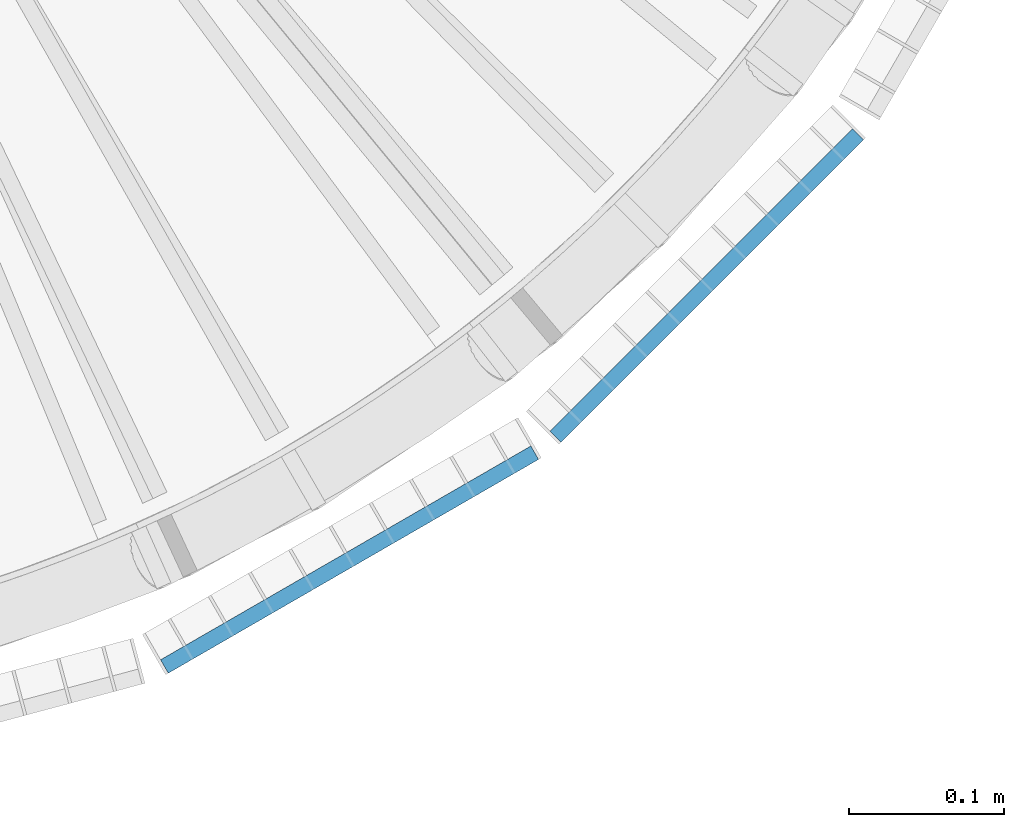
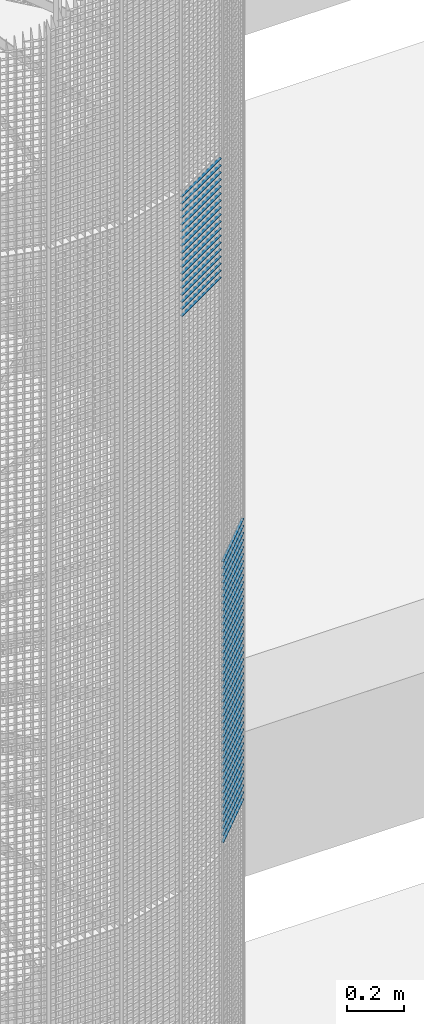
# One storey, part 241 of 1183: 59 beams, 2 elements without a shape of their own.
"""IFC2X3 building model written with IfcOpenShell, lengths in millimetres."""

from ifc_helpers import new_model, si_unit, frame, origin_with_axes, origin_2d_with_axis, place, context, subcontext, project, spatial, rectangle, extrude, material, type_object, element, aggregate, save


model = new_model("IFC2X3")

# Units and contexts
model_context = context("Model", 3, precision=1e-05, world=origin_with_axes())
body_context = subcontext(model_context, "Body", "Model", "MODEL_VIEW")
ifc_project = project(units=[si_unit("LENGTHUNIT", "METRE", prefix="MILLI"), si_unit("AREAUNIT", "SQUARE_METRE"), si_unit("VOLUMEUNIT", "CUBIC_METRE"), si_unit("MASSUNIT", "GRAM", prefix="KILO"), si_unit("TIMEUNIT", "SECOND"), si_unit("PLANEANGLEUNIT", "RADIAN"), si_unit("SOLIDANGLEUNIT", "STERADIAN"), si_unit("THERMODYNAMICTEMPERATUREUNIT", "DEGREE_CELSIUS"), si_unit("LUMINOUSINTENSITYUNIT", "LUMEN")], contexts=[model_context])

# Site, building, storey
site_placement = place(None, origin_with_axes())
site = spatial("IfcSite", under=ifc_project, at=site_placement, Name="Undefined", CompositionType="ELEMENT")
building_placement = place(site_placement, origin_with_axes())
building = spatial("IfcBuilding", under=site, at=building_placement, Name="Undefined", CompositionType="ELEMENT")
storey_placement = place(building_placement, origin_with_axes())
storey = spatial("IfcBuildingStorey", under=building, at=storey_placement, Name="Undefined", CompositionType="ELEMENT", Elevation=0.0)

# Assembly, beams
assembly_1_placement = place(storey_placement, origin_with_axes())
assembly_1 = element("IfcElementAssembly", 1, at=assembly_1_placement, inside=storey, Name="BORDURE", AssemblyPlace="NOTDEFINED", PredefinedType="NOTDEFINED")
ifc_material = material(Name="STEEL/S235JR")
beam_type = type_object("IfcBeamType", Name="PL2*10", PredefinedType="NOTDEFINED")
beam_1_placement = place(assembly_1_placement, frame((689.771348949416, -884.927168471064, 13230.0), z_axis=(0.707106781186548, -0.707106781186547, 0.0), x_axis=(0.707106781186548, 0.707106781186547, 0.0)))
beam_1 = element("IfcBeam", 2, at=beam_1_placement, type_object=beam_type, material=ifc_material, Name="ENTRETOISE", context=body_context, shape_type="SweptSolid", body=[
    extrude(rectangle(XDim=2.0, YDim=10.0, at=origin_2d_with_axis()), frame((275.999999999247, 9.09494701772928e-13, 1.53210777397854e-14), z_axis=(-1.0, 0.0, 0.0), x_axis=(0.0, -1.0, 0.0)), (0.0, 0.0, 1.0), 276.0),
])
beam_2_placement = place(assembly_1_placement, frame((689.771348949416, -884.927168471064, 13200.0), z_axis=(0.707106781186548, -0.707106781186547, 0.0), x_axis=(0.707106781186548, 0.707106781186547, 0.0)))
beam_2 = element("IfcBeam", 3, at=beam_2_placement, type_object=beam_type, material=ifc_material, Name="ENTRETOISE", context=body_context, shape_type="SweptSolid", body=[
    extrude(rectangle(XDim=2.0, YDim=10.0, at=origin_2d_with_axis()), frame((275.999999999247, 9.09494701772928e-13, 1.53210777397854e-14), z_axis=(-1.0, 0.0, 0.0), x_axis=(0.0, -1.0, 0.0)), (0.0, 0.0, 1.0), 276.0),
])
beam_3_placement = place(assembly_1_placement, frame((689.771348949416, -884.927168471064, 13170.0), z_axis=(0.707106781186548, -0.707106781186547, 0.0), x_axis=(0.707106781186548, 0.707106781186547, 0.0)))
beam_3 = element("IfcBeam", 4, at=beam_3_placement, type_object=beam_type, material=ifc_material, Name="ENTRETOISE", context=body_context, shape_type="SweptSolid", body=[
    extrude(rectangle(XDim=2.0, YDim=10.0, at=origin_2d_with_axis()), frame((275.999999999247, 9.09494701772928e-13, 1.53210777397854e-14), z_axis=(-1.0, 0.0, 0.0), x_axis=(0.0, -1.0, 0.0)), (0.0, 0.0, 1.0), 276.0),
])
beam_4_placement = place(assembly_1_placement, frame((689.771348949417, -884.927168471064, 13140.0), z_axis=(0.707106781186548, -0.707106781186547, 0.0), x_axis=(0.707106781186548, 0.707106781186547, 0.0)))
beam_4 = element("IfcBeam", 5, at=beam_4_placement, type_object=beam_type, material=ifc_material, Name="ENTRETOISE", context=body_context, shape_type="SweptSolid", body=[
    extrude(rectangle(XDim=2.0, YDim=10.0, at=origin_2d_with_axis()), frame((275.999999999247, 9.09494701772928e-13, 1.53210777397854e-14), z_axis=(-1.0, 0.0, 0.0), x_axis=(0.0, -1.0, 0.0)), (0.0, 0.0, 1.0), 276.0),
])
beam_5_placement = place(assembly_1_placement, frame((689.771348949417, -884.927168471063, 12720.0), z_axis=(0.707106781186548, -0.707106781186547, 0.0), x_axis=(0.707106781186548, 0.707106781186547, 0.0)))
beam_5 = element("IfcBeam", 6, at=beam_5_placement, type_object=beam_type, material=ifc_material, Name="ENTRETOISE", context=body_context, shape_type="SweptSolid", body=[
    extrude(rectangle(XDim=2.0, YDim=10.0, at=origin_2d_with_axis()), frame((275.999999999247, 9.09494701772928e-13, 1.53210777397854e-14), z_axis=(-1.0, 0.0, 0.0), x_axis=(0.0, -1.0, 0.0)), (0.0, 0.0, 1.0), 276.0),
])
beam_6_placement = place(assembly_1_placement, frame((689.771348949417, -884.927168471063, 12690.0), z_axis=(0.707106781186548, -0.707106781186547, 0.0), x_axis=(0.707106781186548, 0.707106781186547, 0.0)))
beam_6 = element("IfcBeam", 7, at=beam_6_placement, type_object=beam_type, material=ifc_material, Name="ENTRETOISE", context=body_context, shape_type="SweptSolid", body=[
    extrude(rectangle(XDim=2.0, YDim=10.0, at=origin_2d_with_axis()), frame((275.999999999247, 9.09494701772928e-13, 1.53210777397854e-14), z_axis=(-1.0, 0.0, 0.0), x_axis=(0.0, -1.0, 0.0)), (0.0, 0.0, 1.0), 276.0),
])
beam_7_placement = place(assembly_1_placement, frame((689.771348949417, -884.927168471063, 12750.0), z_axis=(0.707106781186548, -0.707106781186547, 0.0), x_axis=(0.707106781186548, 0.707106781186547, 0.0)))
beam_7 = element("IfcBeam", 8, at=beam_7_placement, type_object=beam_type, material=ifc_material, Name="ENTRETOISE", context=body_context, shape_type="SweptSolid", body=[
    extrude(rectangle(XDim=2.0, YDim=10.0, at=origin_2d_with_axis()), frame((275.999999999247, 9.09494701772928e-13, 1.53210777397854e-14), z_axis=(-1.0, 0.0, 0.0), x_axis=(0.0, -1.0, 0.0)), (0.0, 0.0, 1.0), 276.0),
])
beam_8_placement = place(assembly_1_placement, frame((689.771348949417, -884.927168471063, 12660.0), z_axis=(0.707106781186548, -0.707106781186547, 0.0), x_axis=(0.707106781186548, 0.707106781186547, 0.0)))
beam_8 = element("IfcBeam", 9, at=beam_8_placement, type_object=beam_type, material=ifc_material, Name="ENTRETOISE", context=body_context, shape_type="SweptSolid", body=[
    extrude(rectangle(XDim=2.0, YDim=10.0, at=origin_2d_with_axis()), frame((275.999999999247, 9.09494701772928e-13, 1.53210777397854e-14), z_axis=(-1.0, 0.0, 0.0), x_axis=(0.0, -1.0, 0.0)), (0.0, 0.0, 1.0), 276.0),
])
beam_9_placement = place(assembly_1_placement, frame((689.771348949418, -884.927168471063, 12630.0), z_axis=(0.707106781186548, -0.707106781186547, 0.0), x_axis=(0.707106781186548, 0.707106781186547, 0.0)))
beam_9 = element("IfcBeam", 10, at=beam_9_placement, type_object=beam_type, material=ifc_material, Name="ENTRETOISE", context=body_context, shape_type="SweptSolid", body=[
    extrude(rectangle(XDim=2.0, YDim=10.0, at=origin_2d_with_axis()), frame((275.999999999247, 9.09494701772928e-13, 1.53210777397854e-14), z_axis=(-1.0, 0.0, 0.0), x_axis=(0.0, -1.0, 0.0)), (0.0, 0.0, 1.0), 276.0),
])
beam_10_placement = place(assembly_1_placement, frame((689.771348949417, -884.927168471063, 12780.0), z_axis=(0.707106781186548, -0.707106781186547, 0.0), x_axis=(0.707106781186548, 0.707106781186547, 0.0)))
beam_10 = element("IfcBeam", 11, at=beam_10_placement, type_object=beam_type, material=ifc_material, Name="ENTRETOISE", context=body_context, shape_type="SweptSolid", body=[
    extrude(rectangle(XDim=2.0, YDim=10.0, at=origin_2d_with_axis()), frame((275.999999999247, 9.09494701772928e-13, 1.53210777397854e-14), z_axis=(-1.0, 0.0, 0.0), x_axis=(0.0, -1.0, 0.0)), (0.0, 0.0, 1.0), 276.0),
])
beam_11_placement = place(assembly_1_placement, frame((689.771348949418, -884.927168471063, 12600.0), z_axis=(0.707106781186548, -0.707106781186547, 0.0), x_axis=(0.707106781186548, 0.707106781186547, 0.0)))
beam_11 = element("IfcBeam", 12, at=beam_11_placement, type_object=beam_type, material=ifc_material, Name="ENTRETOISE", context=body_context, shape_type="SweptSolid", body=[
    extrude(rectangle(XDim=2.0, YDim=10.0, at=origin_2d_with_axis()), frame((275.999999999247, 9.09494701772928e-13, 1.53210777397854e-14), z_axis=(-1.0, 0.0, 0.0), x_axis=(0.0, -1.0, 0.0)), (0.0, 0.0, 1.0), 276.0),
])
beam_12_placement = place(assembly_1_placement, frame((689.771348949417, -884.927168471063, 12810.0), z_axis=(0.707106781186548, -0.707106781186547, 0.0), x_axis=(0.707106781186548, 0.707106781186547, 0.0)))
beam_12 = element("IfcBeam", 13, at=beam_12_placement, type_object=beam_type, material=ifc_material, Name="ENTRETOISE", context=body_context, shape_type="SweptSolid", body=[
    extrude(rectangle(XDim=2.0, YDim=10.0, at=origin_2d_with_axis()), frame((275.999999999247, 9.09494701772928e-13, 1.53210777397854e-14), z_axis=(-1.0, 0.0, 0.0), x_axis=(0.0, -1.0, 0.0)), (0.0, 0.0, 1.0), 276.0),
])
beam_13_placement = place(assembly_1_placement, frame((689.771348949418, -884.927168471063, 12570.0), z_axis=(0.707106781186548, -0.707106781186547, 0.0), x_axis=(0.707106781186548, 0.707106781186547, 0.0)))
beam_13 = element("IfcBeam", 14, at=beam_13_placement, type_object=beam_type, material=ifc_material, Name="ENTRETOISE", context=body_context, shape_type="SweptSolid", body=[
    extrude(rectangle(XDim=2.0, YDim=10.0, at=origin_2d_with_axis()), frame((275.999999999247, 9.09494701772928e-13, 1.53210777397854e-14), z_axis=(-1.0, 0.0, 0.0), x_axis=(0.0, -1.0, 0.0)), (0.0, 0.0, 1.0), 276.0),
])
beam_14_placement = place(assembly_1_placement, frame((689.771348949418, -884.927168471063, 12540.0), z_axis=(0.707106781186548, -0.707106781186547, 0.0), x_axis=(0.707106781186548, 0.707106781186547, 0.0)))
beam_14 = element("IfcBeam", 15, at=beam_14_placement, type_object=beam_type, material=ifc_material, Name="ENTRETOISE", context=body_context, shape_type="SweptSolid", body=[
    extrude(rectangle(XDim=2.0, YDim=10.0, at=origin_2d_with_axis()), frame((275.999999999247, 9.09494701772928e-13, 1.53210777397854e-14), z_axis=(-1.0, 0.0, 0.0), x_axis=(0.0, -1.0, 0.0)), (0.0, 0.0, 1.0), 276.0),
])
beam_15_placement = place(assembly_1_placement, frame((689.771348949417, -884.927168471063, 12840.0), z_axis=(0.707106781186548, -0.707106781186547, 0.0), x_axis=(0.707106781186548, 0.707106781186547, 0.0)))
beam_15 = element("IfcBeam", 16, at=beam_15_placement, type_object=beam_type, material=ifc_material, Name="ENTRETOISE", context=body_context, shape_type="SweptSolid", body=[
    extrude(rectangle(XDim=2.0, YDim=10.0, at=origin_2d_with_axis()), frame((275.999999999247, 9.09494701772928e-13, 1.53210777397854e-14), z_axis=(-1.0, 0.0, 0.0), x_axis=(0.0, -1.0, 0.0)), (0.0, 0.0, 1.0), 276.0),
])
beam_16_placement = place(assembly_1_placement, frame((689.771348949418, -884.927168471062, 12510.0), z_axis=(0.707106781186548, -0.707106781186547, 0.0), x_axis=(0.707106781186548, 0.707106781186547, 0.0)))
beam_16 = element("IfcBeam", 17, at=beam_16_placement, type_object=beam_type, material=ifc_material, Name="ENTRETOISE", context=body_context, shape_type="SweptSolid", body=[
    extrude(rectangle(XDim=2.0, YDim=10.0, at=origin_2d_with_axis()), frame((275.999999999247, 9.09494701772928e-13, 1.53210777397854e-14), z_axis=(-1.0, 0.0, 0.0), x_axis=(0.0, -1.0, 0.0)), (0.0, 0.0, 1.0), 276.0),
])
beam_17_placement = place(assembly_1_placement, frame((689.771348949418, -884.927168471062, 12480.0), z_axis=(0.707106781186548, -0.707106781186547, 0.0), x_axis=(0.707106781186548, 0.707106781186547, 0.0)))
beam_17 = element("IfcBeam", 18, at=beam_17_placement, type_object=beam_type, material=ifc_material, Name="ENTRETOISE", context=body_context, shape_type="SweptSolid", body=[
    extrude(rectangle(XDim=2.0, YDim=10.0, at=origin_2d_with_axis()), frame((275.999999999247, 9.09494701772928e-13, 1.53210777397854e-14), z_axis=(-1.0, 0.0, 0.0), x_axis=(0.0, -1.0, 0.0)), (0.0, 0.0, 1.0), 276.0),
])
beam_18_placement = place(assembly_1_placement, frame((689.771348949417, -884.927168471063, 12870.0), z_axis=(0.707106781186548, -0.707106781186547, 0.0), x_axis=(0.707106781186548, 0.707106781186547, 0.0)))
beam_18 = element("IfcBeam", 19, at=beam_18_placement, type_object=beam_type, material=ifc_material, Name="ENTRETOISE", context=body_context, shape_type="SweptSolid", body=[
    extrude(rectangle(XDim=2.0, YDim=10.0, at=origin_2d_with_axis()), frame((275.999999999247, 9.09494701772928e-13, 1.53210777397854e-14), z_axis=(-1.0, 0.0, 0.0), x_axis=(0.0, -1.0, 0.0)), (0.0, 0.0, 1.0), 276.0),
])
beam_19_placement = place(assembly_1_placement, frame((689.771348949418, -884.927168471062, 12450.0), z_axis=(0.707106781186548, -0.707106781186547, 0.0), x_axis=(0.707106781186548, 0.707106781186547, 0.0)))
beam_19 = element("IfcBeam", 20, at=beam_19_placement, type_object=beam_type, material=ifc_material, Name="ENTRETOISE", context=body_context, shape_type="SweptSolid", body=[
    extrude(rectangle(XDim=2.0, YDim=10.0, at=origin_2d_with_axis()), frame((275.999999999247, 9.09494701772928e-13, 1.53210777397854e-14), z_axis=(-1.0, 0.0, 0.0), x_axis=(0.0, -1.0, 0.0)), (0.0, 0.0, 1.0), 276.0),
])
beam_20_placement = place(assembly_1_placement, frame((689.771348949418, -884.927168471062, 12420.0), z_axis=(0.707106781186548, -0.707106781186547, 0.0), x_axis=(0.707106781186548, 0.707106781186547, 0.0)))
beam_20 = element("IfcBeam", 21, at=beam_20_placement, type_object=beam_type, material=ifc_material, Name="ENTRETOISE", context=body_context, shape_type="SweptSolid", body=[
    extrude(rectangle(XDim=2.0, YDim=10.0, at=origin_2d_with_axis()), frame((275.999999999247, 9.09494701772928e-13, 1.53210777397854e-14), z_axis=(-1.0, 0.0, 0.0), x_axis=(0.0, -1.0, 0.0)), (0.0, 0.0, 1.0), 276.0),
])
beam_21_placement = place(assembly_1_placement, frame((689.771348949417, -884.927168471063, 12900.0), z_axis=(0.707106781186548, -0.707106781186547, 0.0), x_axis=(0.707106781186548, 0.707106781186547, 0.0)))
beam_21 = element("IfcBeam", 22, at=beam_21_placement, type_object=beam_type, material=ifc_material, Name="ENTRETOISE", context=body_context, shape_type="SweptSolid", body=[
    extrude(rectangle(XDim=2.0, YDim=10.0, at=origin_2d_with_axis()), frame((275.999999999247, 9.09494701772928e-13, 1.53210777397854e-14), z_axis=(-1.0, 0.0, 0.0), x_axis=(0.0, -1.0, 0.0)), (0.0, 0.0, 1.0), 276.0),
])
beam_22_placement = place(assembly_1_placement, frame((689.771348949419, -884.927168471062, 12390.0), z_axis=(0.707106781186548, -0.707106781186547, 0.0), x_axis=(0.707106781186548, 0.707106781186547, 0.0)))
beam_22 = element("IfcBeam", 23, at=beam_22_placement, type_object=beam_type, material=ifc_material, Name="ENTRETOISE", context=body_context, shape_type="SweptSolid", body=[
    extrude(rectangle(XDim=2.0, YDim=10.0, at=origin_2d_with_axis()), frame((275.999999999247, 9.09494701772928e-13, 1.53210777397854e-14), z_axis=(-1.0, 0.0, 0.0), x_axis=(0.0, -1.0, 0.0)), (0.0, 0.0, 1.0), 276.0),
])
beam_23_placement = place(assembly_1_placement, frame((689.771348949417, -884.927168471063, 12930.0), z_axis=(0.707106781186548, -0.707106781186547, 0.0), x_axis=(0.707106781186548, 0.707106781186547, 0.0)))
beam_23 = element("IfcBeam", 24, at=beam_23_placement, type_object=beam_type, material=ifc_material, Name="ENTRETOISE", context=body_context, shape_type="SweptSolid", body=[
    extrude(rectangle(XDim=2.0, YDim=10.0, at=origin_2d_with_axis()), frame((275.999999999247, 9.09494701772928e-13, 1.53210777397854e-14), z_axis=(-1.0, 0.0, 0.0), x_axis=(0.0, -1.0, 0.0)), (0.0, 0.0, 1.0), 276.0),
])
beam_24_placement = place(assembly_1_placement, frame((689.771348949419, -884.927168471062, 12360.0), z_axis=(0.707106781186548, -0.707106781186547, 0.0), x_axis=(0.707106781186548, 0.707106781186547, 0.0)))
beam_24 = element("IfcBeam", 25, at=beam_24_placement, type_object=beam_type, material=ifc_material, Name="ENTRETOISE", context=body_context, shape_type="SweptSolid", body=[
    extrude(rectangle(XDim=2.0, YDim=10.0, at=origin_2d_with_axis()), frame((275.999999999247, 9.09494701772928e-13, 1.53210777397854e-14), z_axis=(-1.0, 0.0, 0.0), x_axis=(0.0, -1.0, 0.0)), (0.0, 0.0, 1.0), 276.0),
])
beam_25_placement = place(assembly_1_placement, frame((689.771348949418, -884.927168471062, 12330.0), z_axis=(0.707106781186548, -0.707106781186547, 0.0), x_axis=(0.707106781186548, 0.707106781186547, 0.0)))
beam_25 = element("IfcBeam", 26, at=beam_25_placement, type_object=beam_type, material=ifc_material, Name="ENTRETOISE", context=body_context, shape_type="SweptSolid", body=[
    extrude(rectangle(XDim=2.0, YDim=10.0, at=origin_2d_with_axis()), frame((275.999999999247, 9.09494701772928e-13, 1.53210777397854e-14), z_axis=(-1.0, 0.0, 0.0), x_axis=(0.0, -1.0, 0.0)), (0.0, 0.0, 1.0), 276.0),
])
beam_26_placement = place(assembly_1_placement, frame((689.771348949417, -884.927168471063, 12960.0), z_axis=(0.707106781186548, -0.707106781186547, 0.0), x_axis=(0.707106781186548, 0.707106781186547, 0.0)))
beam_26 = element("IfcBeam", 27, at=beam_26_placement, type_object=beam_type, material=ifc_material, Name="ENTRETOISE", context=body_context, shape_type="SweptSolid", body=[
    extrude(rectangle(XDim=2.0, YDim=10.0, at=origin_2d_with_axis()), frame((275.999999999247, 9.09494701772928e-13, 1.53210777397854e-14), z_axis=(-1.0, 0.0, 0.0), x_axis=(0.0, -1.0, 0.0)), (0.0, 0.0, 1.0), 276.0),
])
beam_27_placement = place(assembly_1_placement, frame((689.771348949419, -884.927168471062, 12300.0), z_axis=(0.707106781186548, -0.707106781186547, 0.0), x_axis=(0.707106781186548, 0.707106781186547, 0.0)))
beam_27 = element("IfcBeam", 28, at=beam_27_placement, type_object=beam_type, material=ifc_material, Name="ENTRETOISE", context=body_context, shape_type="SweptSolid", body=[
    extrude(rectangle(XDim=2.0, YDim=10.0, at=origin_2d_with_axis()), frame((275.999999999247, 9.09494701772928e-13, 1.53210777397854e-14), z_axis=(-1.0, 0.0, 0.0), x_axis=(0.0, -1.0, 0.0)), (0.0, 0.0, 1.0), 276.0),
])
beam_28_placement = place(assembly_1_placement, frame((689.771348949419, -884.927168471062, 12270.0), z_axis=(0.707106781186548, -0.707106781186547, 0.0), x_axis=(0.707106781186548, 0.707106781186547, 0.0)))
beam_28 = element("IfcBeam", 29, at=beam_28_placement, type_object=beam_type, material=ifc_material, Name="ENTRETOISE", context=body_context, shape_type="SweptSolid", body=[
    extrude(rectangle(XDim=2.0, YDim=10.0, at=origin_2d_with_axis()), frame((275.999999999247, 9.09494701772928e-13, 1.53210777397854e-14), z_axis=(-1.0, 0.0, 0.0), x_axis=(0.0, -1.0, 0.0)), (0.0, 0.0, 1.0), 276.0),
])
beam_29_placement = place(assembly_1_placement, frame((689.771348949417, -884.927168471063, 12990.0), z_axis=(0.707106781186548, -0.707106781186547, 0.0), x_axis=(0.707106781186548, 0.707106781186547, 0.0)))
beam_29 = element("IfcBeam", 30, at=beam_29_placement, type_object=beam_type, material=ifc_material, Name="ENTRETOISE", context=body_context, shape_type="SweptSolid", body=[
    extrude(rectangle(XDim=2.0, YDim=10.0, at=origin_2d_with_axis()), frame((275.999999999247, 9.09494701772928e-13, 1.53210777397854e-14), z_axis=(-1.0, 0.0, 0.0), x_axis=(0.0, -1.0, 0.0)), (0.0, 0.0, 1.0), 276.0),
])
beam_30_placement = place(assembly_1_placement, frame((689.771348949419, -884.927168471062, 12240.0), z_axis=(0.707106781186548, -0.707106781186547, 0.0), x_axis=(0.707106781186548, 0.707106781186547, 0.0)))
beam_30 = element("IfcBeam", 31, at=beam_30_placement, type_object=beam_type, material=ifc_material, Name="ENTRETOISE", context=body_context, shape_type="SweptSolid", body=[
    extrude(rectangle(XDim=2.0, YDim=10.0, at=origin_2d_with_axis()), frame((275.999999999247, 9.09494701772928e-13, 1.53210777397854e-14), z_axis=(-1.0, 0.0, 0.0), x_axis=(0.0, -1.0, 0.0)), (0.0, 0.0, 1.0), 276.0),
])
beam_31_placement = place(assembly_1_placement, frame((689.771348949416, -884.927168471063, 13020.0), z_axis=(0.707106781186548, -0.707106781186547, 0.0), x_axis=(0.707106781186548, 0.707106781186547, 0.0)))
beam_31 = element("IfcBeam", 32, at=beam_31_placement, type_object=beam_type, material=ifc_material, Name="ENTRETOISE", context=body_context, shape_type="SweptSolid", body=[
    extrude(rectangle(XDim=2.0, YDim=10.0, at=origin_2d_with_axis()), frame((275.999999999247, 9.09494701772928e-13, 1.53210777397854e-14), z_axis=(-1.0, 0.0, 0.0), x_axis=(0.0, -1.0, 0.0)), (0.0, 0.0, 1.0), 276.0),
])
beam_32_placement = place(assembly_1_placement, frame((689.771348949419, -884.927168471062, 12210.0), z_axis=(0.707106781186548, -0.707106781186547, 0.0), x_axis=(0.707106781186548, 0.707106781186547, 0.0)))
beam_32 = element("IfcBeam", 33, at=beam_32_placement, type_object=beam_type, material=ifc_material, Name="ENTRETOISE", context=body_context, shape_type="SweptSolid", body=[
    extrude(rectangle(XDim=2.0, YDim=10.0, at=origin_2d_with_axis()), frame((275.999999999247, 9.09494701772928e-13, 1.53210777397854e-14), z_axis=(-1.0, 0.0, 0.0), x_axis=(0.0, -1.0, 0.0)), (0.0, 0.0, 1.0), 276.0),
])
beam_33_placement = place(assembly_1_placement, frame((689.771348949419, -884.927168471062, 12180.0), z_axis=(0.707106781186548, -0.707106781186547, 0.0), x_axis=(0.707106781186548, 0.707106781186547, 0.0)))
beam_33 = element("IfcBeam", 34, at=beam_33_placement, type_object=beam_type, material=ifc_material, Name="ENTRETOISE", context=body_context, shape_type="SweptSolid", body=[
    extrude(rectangle(XDim=2.0, YDim=10.0, at=origin_2d_with_axis()), frame((275.999999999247, 9.09494701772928e-13, 1.53210777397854e-14), z_axis=(-1.0, 0.0, 0.0), x_axis=(0.0, -1.0, 0.0)), (0.0, 0.0, 1.0), 276.0),
])
beam_34_placement = place(assembly_1_placement, frame((689.771348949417, -884.927168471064, 13050.0), z_axis=(0.707106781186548, -0.707106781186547, 0.0), x_axis=(0.707106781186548, 0.707106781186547, 0.0)))
beam_34 = element("IfcBeam", 35, at=beam_34_placement, type_object=beam_type, material=ifc_material, Name="ENTRETOISE", context=body_context, shape_type="SweptSolid", body=[
    extrude(rectangle(XDim=2.0, YDim=10.0, at=origin_2d_with_axis()), frame((275.999999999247, 9.09494701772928e-13, 1.53210777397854e-14), z_axis=(-1.0, 0.0, 0.0), x_axis=(0.0, -1.0, 0.0)), (0.0, 0.0, 1.0), 276.0),
])
beam_35_placement = place(assembly_1_placement, frame((689.771348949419, -884.927168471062, 12150.0), z_axis=(0.707106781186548, -0.707106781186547, 0.0), x_axis=(0.707106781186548, 0.707106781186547, 0.0)))
beam_35 = element("IfcBeam", 36, at=beam_35_placement, type_object=beam_type, material=ifc_material, Name="ENTRETOISE", context=body_context, shape_type="SweptSolid", body=[
    extrude(rectangle(XDim=2.0, YDim=10.0, at=origin_2d_with_axis()), frame((275.999999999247, 9.09494701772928e-13, 1.53210777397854e-14), z_axis=(-1.0, 0.0, 0.0), x_axis=(0.0, -1.0, 0.0)), (0.0, 0.0, 1.0), 276.0),
])
beam_36_placement = place(assembly_1_placement, frame((689.771348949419, -884.927168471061, 12120.0), z_axis=(0.707106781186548, -0.707106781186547, 0.0), x_axis=(0.707106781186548, 0.707106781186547, 0.0)))
beam_36 = element("IfcBeam", 37, at=beam_36_placement, type_object=beam_type, material=ifc_material, Name="ENTRETOISE", context=body_context, shape_type="SweptSolid", body=[
    extrude(rectangle(XDim=2.0, YDim=10.0, at=origin_2d_with_axis()), frame((275.999999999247, 9.09494701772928e-13, 1.53210777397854e-14), z_axis=(-1.0, 0.0, 0.0), x_axis=(0.0, -1.0, 0.0)), (0.0, 0.0, 1.0), 276.0),
])
beam_37_placement = place(assembly_1_placement, frame((689.771348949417, -884.927168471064, 13080.0), z_axis=(0.707106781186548, -0.707106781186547, 0.0), x_axis=(0.707106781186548, 0.707106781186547, 0.0)))
beam_37 = element("IfcBeam", 38, at=beam_37_placement, type_object=beam_type, material=ifc_material, Name="ENTRETOISE", context=body_context, shape_type="SweptSolid", body=[
    extrude(rectangle(XDim=2.0, YDim=10.0, at=origin_2d_with_axis()), frame((275.999999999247, 9.09494701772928e-13, 1.53210777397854e-14), z_axis=(-1.0, 0.0, 0.0), x_axis=(0.0, -1.0, 0.0)), (0.0, 0.0, 1.0), 276.0),
])
beam_38_placement = place(assembly_1_placement, frame((689.771348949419, -884.927168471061, 12090.0), z_axis=(0.707106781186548, -0.707106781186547, 0.0), x_axis=(0.707106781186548, 0.707106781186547, 0.0)))
beam_38 = element("IfcBeam", 39, at=beam_38_placement, type_object=beam_type, material=ifc_material, Name="ENTRETOISE", context=body_context, shape_type="SweptSolid", body=[
    extrude(rectangle(XDim=2.0, YDim=10.0, at=origin_2d_with_axis()), frame((275.999999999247, 9.09494701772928e-13, 1.53210777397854e-14), z_axis=(-1.0, 0.0, 0.0), x_axis=(0.0, -1.0, 0.0)), (0.0, 0.0, 1.0), 276.0),
])
beam_39_placement = place(assembly_1_placement, frame((689.771348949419, -884.927168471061, 12060.0), z_axis=(0.707106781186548, -0.707106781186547, 0.0), x_axis=(0.707106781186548, 0.707106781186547, 0.0)))
beam_39 = element("IfcBeam", 40, at=beam_39_placement, type_object=beam_type, material=ifc_material, Name="ENTRETOISE", context=body_context, shape_type="SweptSolid", body=[
    extrude(rectangle(XDim=2.0, YDim=10.0, at=origin_2d_with_axis()), frame((275.999999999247, 9.09494701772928e-13, 1.53210777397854e-14), z_axis=(-1.0, 0.0, 0.0), x_axis=(0.0, -1.0, 0.0)), (0.0, 0.0, 1.0), 276.0),
])
beam_40_placement = place(assembly_1_placement, frame((689.771348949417, -884.927168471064, 13110.0), z_axis=(0.707106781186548, -0.707106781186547, 0.0), x_axis=(0.707106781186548, 0.707106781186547, 0.0)))
beam_40 = element("IfcBeam", 41, at=beam_40_placement, type_object=beam_type, material=ifc_material, Name="ENTRETOISE", context=body_context, shape_type="SweptSolid", body=[
    extrude(rectangle(XDim=2.0, YDim=10.0, at=origin_2d_with_axis()), frame((275.999999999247, 9.09494701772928e-13, 1.53210777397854e-14), z_axis=(-1.0, 0.0, 0.0), x_axis=(0.0, -1.0, 0.0)), (0.0, 0.0, 1.0), 276.0),
])
beam_41_placement = place(assembly_1_placement, frame((689.77134894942, -884.92716847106, 12030.0), z_axis=(0.707106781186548, -0.707106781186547, 0.0), x_axis=(0.707106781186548, 0.707106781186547, 0.0)))
beam_41 = element("IfcBeam", 42, at=beam_41_placement, type_object=beam_type, material=ifc_material, Name="ENTRETOISE", context=body_context, shape_type="SweptSolid", body=[
    extrude(rectangle(XDim=2.0, YDim=10.0, at=origin_2d_with_axis()), frame((275.999999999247, 9.09494701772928e-13, 1.53210777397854e-14), z_axis=(-1.0, 0.0, 0.0), x_axis=(0.0, -1.0, 0.0)), (0.0, 0.0, 1.0), 276.0),
])
aggregate(assembly_1, [beam_1, beam_2, beam_3, beam_4, beam_5, beam_6, beam_7, beam_8, beam_9, beam_10, beam_11, beam_12, beam_13, beam_14, beam_15, beam_16, beam_17, beam_18, beam_19, beam_20, beam_21, beam_22, beam_23, beam_24, beam_25, beam_26, beam_27, beam_28, beam_29, beam_30, beam_31, beam_32, beam_33, beam_34, beam_35, beam_36, beam_37, beam_38, beam_39, beam_40, beam_41])

assembly_2_placement = place(storey_placement, origin_with_axes())
assembly_2 = element("IfcElementAssembly", 43, at=assembly_2_placement, inside=storey, Name="BORDURE", AssemblyPlace="NOTDEFINED", PredefinedType="NOTDEFINED")
beam_42_placement = place(assembly_2_placement, frame((437.231955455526, -1033.29996828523, 14970.0), z_axis=(0.499999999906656, -0.866025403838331, 0.0), x_axis=(0.866025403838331, 0.499999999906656, 0.0)))
beam_42 = element("IfcBeam", 44, at=beam_42_placement, type_object=beam_type, material=ifc_material, Name="ENTRETOISE", context=body_context, shape_type="SweptSolid", body=[
    extrude(rectangle(XDim=2.0, YDim=10.0, at=origin_2d_with_axis()), frame((275.999999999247, 9.09494701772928e-13, 1.53210777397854e-14), z_axis=(-1.0, 0.0, 0.0), x_axis=(0.0, -1.0, 0.0)), (0.0, 0.0, 1.0), 276.0),
])
beam_43_placement = place(assembly_2_placement, frame((437.231955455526, -1033.29996828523, 14940.0), z_axis=(0.499999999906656, -0.866025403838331, 0.0), x_axis=(0.866025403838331, 0.499999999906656, 0.0)))
beam_43 = element("IfcBeam", 45, at=beam_43_placement, type_object=beam_type, material=ifc_material, Name="ENTRETOISE", context=body_context, shape_type="SweptSolid", body=[
    extrude(rectangle(XDim=2.0, YDim=10.0, at=origin_2d_with_axis()), frame((275.999999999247, 9.09494701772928e-13, 1.53210777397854e-14), z_axis=(-1.0, 0.0, 0.0), x_axis=(0.0, -1.0, 0.0)), (0.0, 0.0, 1.0), 276.0),
])
beam_44_placement = place(assembly_2_placement, frame((437.231955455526, -1033.29996828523, 14910.0), z_axis=(0.499999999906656, -0.866025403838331, 0.0), x_axis=(0.866025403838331, 0.499999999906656, 0.0)))
beam_44 = element("IfcBeam", 46, at=beam_44_placement, type_object=beam_type, material=ifc_material, Name="ENTRETOISE", context=body_context, shape_type="SweptSolid", body=[
    extrude(rectangle(XDim=2.0, YDim=10.0, at=origin_2d_with_axis()), frame((275.999999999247, 9.09494701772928e-13, 1.53210777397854e-14), z_axis=(-1.0, 0.0, 0.0), x_axis=(0.0, -1.0, 0.0)), (0.0, 0.0, 1.0), 276.0),
])
beam_45_placement = place(assembly_2_placement, frame((437.231955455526, -1033.29996828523, 14880.0), z_axis=(0.499999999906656, -0.866025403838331, 0.0), x_axis=(0.866025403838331, 0.499999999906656, 0.0)))
beam_45 = element("IfcBeam", 47, at=beam_45_placement, type_object=beam_type, material=ifc_material, Name="ENTRETOISE", context=body_context, shape_type="SweptSolid", body=[
    extrude(rectangle(XDim=2.0, YDim=10.0, at=origin_2d_with_axis()), frame((275.999999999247, 9.09494701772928e-13, 1.53210777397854e-14), z_axis=(-1.0, 0.0, 0.0), x_axis=(0.0, -1.0, 0.0)), (0.0, 0.0, 1.0), 276.0),
])
beam_46_placement = place(assembly_2_placement, frame((437.231955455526, -1033.29996828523, 14850.0), z_axis=(0.499999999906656, -0.866025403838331, 0.0), x_axis=(0.866025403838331, 0.499999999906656, 0.0)))
beam_46 = element("IfcBeam", 48, at=beam_46_placement, type_object=beam_type, material=ifc_material, Name="ENTRETOISE", context=body_context, shape_type="SweptSolid", body=[
    extrude(rectangle(XDim=2.0, YDim=10.0, at=origin_2d_with_axis()), frame((275.999999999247, 9.09494701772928e-13, 1.53210777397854e-14), z_axis=(-1.0, 0.0, 0.0), x_axis=(0.0, -1.0, 0.0)), (0.0, 0.0, 1.0), 276.0),
])
beam_47_placement = place(assembly_2_placement, frame((437.231955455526, -1033.29996828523, 14820.0), z_axis=(0.499999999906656, -0.866025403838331, 0.0), x_axis=(0.866025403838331, 0.499999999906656, 0.0)))
beam_47 = element("IfcBeam", 49, at=beam_47_placement, type_object=beam_type, material=ifc_material, Name="ENTRETOISE", context=body_context, shape_type="SweptSolid", body=[
    extrude(rectangle(XDim=2.0, YDim=10.0, at=origin_2d_with_axis()), frame((275.999999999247, 9.09494701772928e-13, 1.53210777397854e-14), z_axis=(-1.0, 0.0, 0.0), x_axis=(0.0, -1.0, 0.0)), (0.0, 0.0, 1.0), 276.0),
])
beam_48_placement = place(assembly_2_placement, frame((437.231955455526, -1033.29996828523, 14790.0), z_axis=(0.499999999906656, -0.866025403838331, 0.0), x_axis=(0.866025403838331, 0.499999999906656, 0.0)))
beam_48 = element("IfcBeam", 50, at=beam_48_placement, type_object=beam_type, material=ifc_material, Name="ENTRETOISE", context=body_context, shape_type="SweptSolid", body=[
    extrude(rectangle(XDim=2.0, YDim=10.0, at=origin_2d_with_axis()), frame((275.999999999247, 9.09494701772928e-13, 1.53210777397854e-14), z_axis=(-1.0, 0.0, 0.0), x_axis=(0.0, -1.0, 0.0)), (0.0, 0.0, 1.0), 276.0),
])
beam_49_placement = place(assembly_2_placement, frame((437.231955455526, -1033.29996828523, 14760.0), z_axis=(0.499999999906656, -0.866025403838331, 0.0), x_axis=(0.866025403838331, 0.499999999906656, 0.0)))
beam_49 = element("IfcBeam", 51, at=beam_49_placement, type_object=beam_type, material=ifc_material, Name="ENTRETOISE", context=body_context, shape_type="SweptSolid", body=[
    extrude(rectangle(XDim=2.0, YDim=10.0, at=origin_2d_with_axis()), frame((275.999999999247, 9.09494701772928e-13, 1.53210777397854e-14), z_axis=(-1.0, 0.0, 0.0), x_axis=(0.0, -1.0, 0.0)), (0.0, 0.0, 1.0), 276.0),
])
beam_50_placement = place(assembly_2_placement, frame((437.231955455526, -1033.29996828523, 14730.0), z_axis=(0.499999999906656, -0.866025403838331, 0.0), x_axis=(0.866025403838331, 0.499999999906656, 0.0)))
beam_50 = element("IfcBeam", 52, at=beam_50_placement, type_object=beam_type, material=ifc_material, Name="ENTRETOISE", context=body_context, shape_type="SweptSolid", body=[
    extrude(rectangle(XDim=2.0, YDim=10.0, at=origin_2d_with_axis()), frame((275.999999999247, 9.09494701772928e-13, 1.53210777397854e-14), z_axis=(-1.0, 0.0, 0.0), x_axis=(0.0, -1.0, 0.0)), (0.0, 0.0, 1.0), 276.0),
])
beam_51_placement = place(assembly_2_placement, frame((437.231955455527, -1033.29996828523, 14700.0), z_axis=(0.499999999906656, -0.866025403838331, 0.0), x_axis=(0.866025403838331, 0.499999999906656, 0.0)))
beam_51 = element("IfcBeam", 53, at=beam_51_placement, type_object=beam_type, material=ifc_material, Name="ENTRETOISE", context=body_context, shape_type="SweptSolid", body=[
    extrude(rectangle(XDim=2.0, YDim=10.0, at=origin_2d_with_axis()), frame((275.999999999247, 9.09494701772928e-13, 1.53210777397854e-14), z_axis=(-1.0, 0.0, 0.0), x_axis=(0.0, -1.0, 0.0)), (0.0, 0.0, 1.0), 276.0),
])
beam_52_placement = place(assembly_2_placement, frame((437.231955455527, -1033.29996828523, 14670.0), z_axis=(0.499999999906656, -0.866025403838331, 0.0), x_axis=(0.866025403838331, 0.499999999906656, 0.0)))
beam_52 = element("IfcBeam", 54, at=beam_52_placement, type_object=beam_type, material=ifc_material, Name="ENTRETOISE", context=body_context, shape_type="SweptSolid", body=[
    extrude(rectangle(XDim=2.0, YDim=10.0, at=origin_2d_with_axis()), frame((275.999999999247, 9.09494701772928e-13, 1.53210777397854e-14), z_axis=(-1.0, 0.0, 0.0), x_axis=(0.0, -1.0, 0.0)), (0.0, 0.0, 1.0), 276.0),
])
beam_53_placement = place(assembly_2_placement, frame((437.231955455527, -1033.29996828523, 14640.0), z_axis=(0.499999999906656, -0.866025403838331, 0.0), x_axis=(0.866025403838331, 0.499999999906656, 0.0)))
beam_53 = element("IfcBeam", 55, at=beam_53_placement, type_object=beam_type, material=ifc_material, Name="ENTRETOISE", context=body_context, shape_type="SweptSolid", body=[
    extrude(rectangle(XDim=2.0, YDim=10.0, at=origin_2d_with_axis()), frame((275.999999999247, 9.09494701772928e-13, 1.53210777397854e-14), z_axis=(-1.0, 0.0, 0.0), x_axis=(0.0, -1.0, 0.0)), (0.0, 0.0, 1.0), 276.0),
])
beam_54_placement = place(assembly_2_placement, frame((437.231955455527, -1033.29996828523, 14610.0), z_axis=(0.499999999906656, -0.866025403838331, 0.0), x_axis=(0.866025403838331, 0.499999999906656, 0.0)))
beam_54 = element("IfcBeam", 56, at=beam_54_placement, type_object=beam_type, material=ifc_material, Name="ENTRETOISE", context=body_context, shape_type="SweptSolid", body=[
    extrude(rectangle(XDim=2.0, YDim=10.0, at=origin_2d_with_axis()), frame((275.999999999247, 9.09494701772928e-13, 1.53210777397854e-14), z_axis=(-1.0, 0.0, 0.0), x_axis=(0.0, -1.0, 0.0)), (0.0, 0.0, 1.0), 276.0),
])
beam_55_placement = place(assembly_2_placement, frame((437.231955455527, -1033.29996828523, 14580.0), z_axis=(0.499999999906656, -0.866025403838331, 0.0), x_axis=(0.866025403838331, 0.499999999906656, 0.0)))
beam_55 = element("IfcBeam", 57, at=beam_55_placement, type_object=beam_type, material=ifc_material, Name="ENTRETOISE", context=body_context, shape_type="SweptSolid", body=[
    extrude(rectangle(XDim=2.0, YDim=10.0, at=origin_2d_with_axis()), frame((275.999999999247, 9.09494701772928e-13, 1.53210777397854e-14), z_axis=(-1.0, 0.0, 0.0), x_axis=(0.0, -1.0, 0.0)), (0.0, 0.0, 1.0), 276.0),
])
beam_56_placement = place(assembly_2_placement, frame((437.231955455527, -1033.29996828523, 14550.0), z_axis=(0.499999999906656, -0.866025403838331, 0.0), x_axis=(0.866025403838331, 0.499999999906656, 0.0)))
beam_56 = element("IfcBeam", 58, at=beam_56_placement, type_object=beam_type, material=ifc_material, Name="ENTRETOISE", context=body_context, shape_type="SweptSolid", body=[
    extrude(rectangle(XDim=2.0, YDim=10.0, at=origin_2d_with_axis()), frame((275.999999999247, 9.09494701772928e-13, 1.53210777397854e-14), z_axis=(-1.0, 0.0, 0.0), x_axis=(0.0, -1.0, 0.0)), (0.0, 0.0, 1.0), 276.0),
])
beam_57_placement = place(assembly_2_placement, frame((437.231955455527, -1033.29996828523, 14520.0), z_axis=(0.499999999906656, -0.866025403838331, 0.0), x_axis=(0.866025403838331, 0.499999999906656, 0.0)))
beam_57 = element("IfcBeam", 59, at=beam_57_placement, type_object=beam_type, material=ifc_material, Name="ENTRETOISE", context=body_context, shape_type="SweptSolid", body=[
    extrude(rectangle(XDim=2.0, YDim=10.0, at=origin_2d_with_axis()), frame((275.999999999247, 9.09494701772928e-13, 1.53210777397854e-14), z_axis=(-1.0, 0.0, 0.0), x_axis=(0.0, -1.0, 0.0)), (0.0, 0.0, 1.0), 276.0),
])
beam_58_placement = place(assembly_2_placement, frame((437.231955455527, -1033.29996828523, 14490.0), z_axis=(0.499999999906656, -0.866025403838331, 0.0), x_axis=(0.866025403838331, 0.499999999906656, 0.0)))
beam_58 = element("IfcBeam", 60, at=beam_58_placement, type_object=beam_type, material=ifc_material, Name="ENTRETOISE", context=body_context, shape_type="SweptSolid", body=[
    extrude(rectangle(XDim=2.0, YDim=10.0, at=origin_2d_with_axis()), frame((275.999999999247, 9.09494701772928e-13, 1.53210777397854e-14), z_axis=(-1.0, 0.0, 0.0), x_axis=(0.0, -1.0, 0.0)), (0.0, 0.0, 1.0), 276.0),
])
beam_59_placement = place(assembly_2_placement, frame((437.231955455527, -1033.29996828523, 14460.0), z_axis=(0.499999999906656, -0.866025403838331, 0.0), x_axis=(0.866025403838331, 0.499999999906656, 0.0)))
beam_59 = element("IfcBeam", 61, at=beam_59_placement, type_object=beam_type, material=ifc_material, Name="ENTRETOISE", context=body_context, shape_type="SweptSolid", body=[
    extrude(rectangle(XDim=2.0, YDim=10.0, at=origin_2d_with_axis()), frame((275.999999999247, 9.09494701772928e-13, 1.53210777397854e-14), z_axis=(-1.0, 0.0, 0.0), x_axis=(0.0, -1.0, 0.0)), (0.0, 0.0, 1.0), 276.0),
])
aggregate(assembly_2, [beam_42, beam_43, beam_44, beam_45, beam_46, beam_47, beam_48, beam_49, beam_50, beam_51, beam_52, beam_53, beam_54, beam_55, beam_56, beam_57, beam_58, beam_59])

save(model, "model.ifc")
